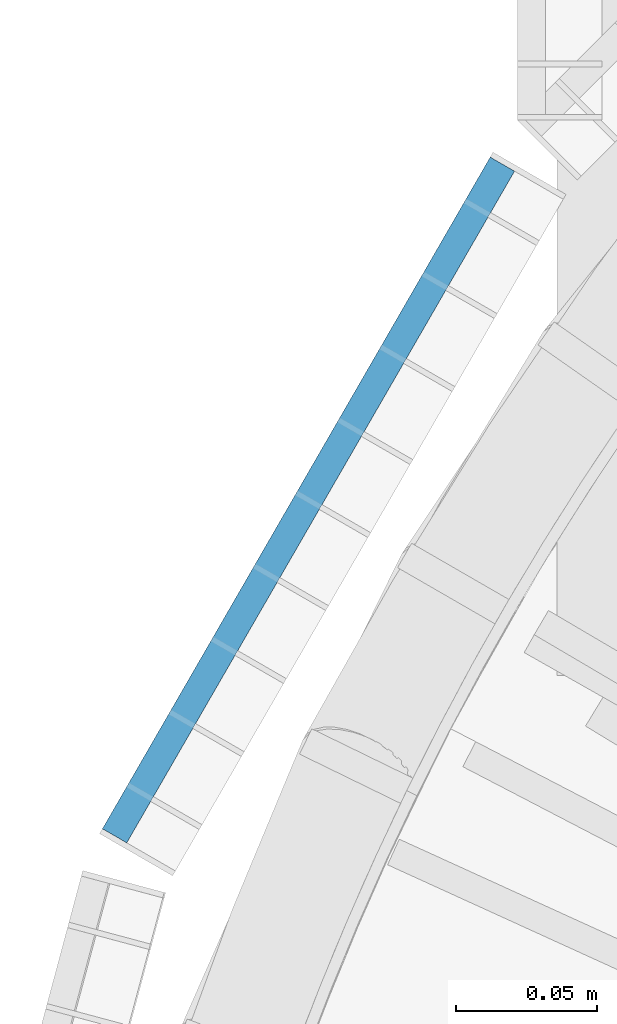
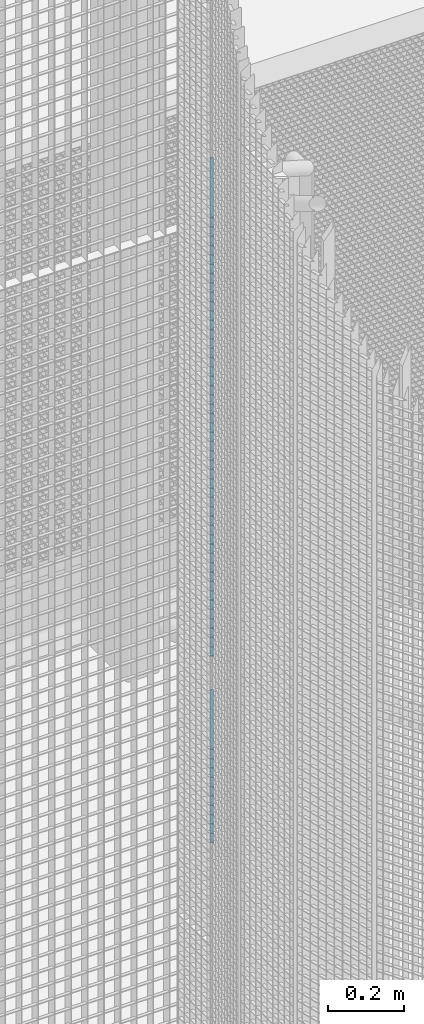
# One storey, part 198 of 1183: 59 beams, 1 element without a shape of its own.
"""IFC2X3 building model written with IfcOpenShell, lengths in millimetres."""

import ifcopenshell
import ifcopenshell.guid

model = None  # the IFC model being written
_history = None  # IfcOwnerHistory: only IFC2X3 demands one
_inside = {}  # id of a spatial element -> (the spatial element, [elements in it])
_under = {}  # id of a project, library or spatial element -> (it, [spatial elements below it])
_declared = {}  # id of a project -> (the project, [libraries it declares])
_typed = {}  # id of a type object -> (the type object, [elements of that type])
_made_of = {}  # id of a material, layer set ... -> (it, [elements and type objects made of it])


def new_model(schema):
    """Start an empty IFC model of exactly this schema.

    Asked for "IFC4X3", IfcOpenShell would pick the latest addendum, in which some entities
    have other attributes; the version numbers below select the first issue.
    IFC2X3 requires an IfcOwnerHistory on every rooted entity: one is made here for all.
    """
    global model, _history
    if schema == "IFC4X3":
        model = ifcopenshell.file(schema_version=(4, 3, 0, 0))
    else:
        model = ifcopenshell.file(schema=schema)
    _inside.clear()
    _under.clear()
    _declared.clear()
    _typed.clear()
    _made_of.clear()
    _history = None
    if model.schema == "IFC2X3":
        org = make("IfcOrganization", Name="unknown")
        user = make(
            "IfcPersonAndOrganization",
            ThePerson=make("IfcPerson", FamilyName="unknown"),
            TheOrganization=org,
        )
        app = make(
            "IfcApplication",
            ApplicationDeveloper=org,
            Version="unknown",
            ApplicationFullName="unknown",
            ApplicationIdentifier="unknown",
        )
        _history = make(
            "IfcOwnerHistory",
            OwningUser=user,
            OwningApplication=app,
            ChangeAction="ADDED",
            CreationDate=0,
        )
    return model


def make(cls, **values):
    """One entity of the class cls with the attributes given. An attribute that is None is left unset."""
    return model.create_entity(
        cls, **{name: value for name, value in values.items() if value is not None}
    )


def rooted(cls, **values):
    """An entity with a GlobalId (a new one), such as an element, a storey or a relation."""
    return make(cls, GlobalId=ifcopenshell.guid.new(), OwnerHistory=_history, **values)


def si_unit(unit_type, name, prefix=None):
    """IfcSIUnit, for example si_unit("LENGTHUNIT", "METRE", prefix="MILLI")."""
    return make("IfcSIUnit", UnitType=unit_type, Prefix=prefix, Name=name)


def assignment(units):
    """IfcUnitAssignment: the units of a project."""
    return None if units is None else make("IfcUnitAssignment", Units=units)


def point(xyz):
    """IfcCartesianPoint."""
    return None if xyz is None else make("IfcCartesianPoint", Coordinates=xyz)


def direction(xyz):
    """IfcDirection."""
    return None if xyz is None else make("IfcDirection", DirectionRatios=xyz)


def frame(location, z_axis=None, x_axis=None):
    """IfcAxis2Placement3D, a coordinate frame: its origin and axes. An axis left out is left unset."""
    return make(
        "IfcAxis2Placement3D",
        Location=point(location),
        Axis=direction(z_axis),
        RefDirection=direction(x_axis),
    )


def frame_2d(location, x_axis=None):
    """IfcAxis2Placement2D, a coordinate frame in the plane: its origin and x axis."""
    return make(
        "IfcAxis2Placement2D", Location=point(location), RefDirection=direction(x_axis)
    )


def origin_with_axes():
    """The frame at (0, 0, 0) with the z axis (0, 0, 1) and the x axis (1, 0, 0) written out."""
    return frame((0.0, 0.0, 0.0), z_axis=(0.0, 0.0, 1.0), x_axis=(1.0, 0.0, 0.0))


def origin_2d_with_axis():
    """The frame at (0, 0) in the plane with the x axis (1, 0) written out."""
    return frame_2d((0.0, 0.0), x_axis=(1.0, 0.0))


def place(relative_to, where):
    """IfcLocalPlacement: puts the frame where relative to a parent placement (None: the world)."""
    return make(
        "IfcLocalPlacement", PlacementRelTo=relative_to, RelativePlacement=where
    )


def context(
    kind, dimensions, precision=None, world=None, true_north=None, identifier=None
):
    """IfcGeometricRepresentationContext, for example the 3D "Model" context."""
    return make(
        "IfcGeometricRepresentationContext",
        ContextIdentifier=identifier,
        ContextType=kind,
        CoordinateSpaceDimension=dimensions,
        Precision=precision,
        WorldCoordinateSystem=world,
        TrueNorth=true_north,
    )


def subcontext(parent, identifier, kind, view, scale=None):
    """IfcGeometricRepresentationSubContext, for example "Body" below "Model"."""
    return make(
        "IfcGeometricRepresentationSubContext",
        ContextIdentifier=identifier,
        ContextType=kind,
        ParentContext=parent,
        TargetScale=scale,
        TargetView=view,
    )


def project(units=None, contexts=None):
    """IfcProject with its units and contexts."""
    return rooted(
        "IfcProject",
        Name="project",
        RepresentationContexts=contexts,
        UnitsInContext=assignment(units),
    )


def spatial(cls, under=None, at=None, **own):
    """A site, building, storey or space (cls), placed at a placement, below another one or the project."""
    s = rooted(cls, ObjectPlacement=at, **own)
    if under is not None:
        _under.setdefault(under.id(), (under, []))[1].append(s)
    return s


def profile(cls, at=None, kind="AREA", **sizes):
    """A parametric profile (cls). Its sizes go by their IFC names, for example OverallWidth=200.0."""
    return make(cls, ProfileType=kind, Position=at, **sizes)


def rectangle(**sizes):
    """IfcRectangleProfileDef."""
    return profile("IfcRectangleProfileDef", **sizes)


def extrude(swept, where, along, depth):
    """IfcExtrudedAreaSolid: the profile swept, set in the frame where, extruded along a direction by depth."""
    return make(
        "IfcExtrudedAreaSolid",
        SweptArea=swept,
        Position=where,
        ExtrudedDirection=direction(along),
        Depth=depth,
    )


def shape(context_of_items, identifier, shape_type, items):
    """IfcShapeRepresentation: the items that make up one representation, for example the "Body"."""
    return make(
        "IfcShapeRepresentation",
        ContextOfItems=context_of_items,
        RepresentationIdentifier=identifier,
        RepresentationType=shape_type,
        Items=items,
    )


def material(Name=None, Category=None):
    """IfcMaterial."""
    return make("IfcMaterial", Name=Name, Category=Category)


def made_of(thing, what):
    """Note that an element or type object is made of a material, layer set ...; save() writes the relation."""
    if what is not None:
        _made_of.setdefault(what.id(), (what, []))[1].append(thing)
    return thing


def type_object(cls, material=None, **own):
    """A type object (cls), such as IfcWallType, which elements share."""
    return made_of(rooted(cls, **own), material)


def element(
    cls,
    number,
    at=None,
    inside=None,
    cuts=None,
    type_object=None,
    material=None,
    context=None,
    identifier="Body",
    shape_type=None,
    held_by="IfcProductDefinitionShape",
    body=None,
    shapes=None,
    **own,
):
    """One element of the class cls, such as IfcWall. Its Tag is "e" and its number.

    at: its placement. inside: the storey or other place that contains it. cuts: it is an
    opening in that element (IfcRelVoidsElement). A single representation is given by context,
    identifier, shape_type and body (its items); several are given by shapes. held_by: the class
    of the entity that holds the representations. save() writes the other relations.
    """
    e = rooted(cls, Tag="e%d" % number, ObjectPlacement=at, **own)
    if body is not None:
        shapes = [shape(context, identifier, shape_type, body)]
    if shapes is not None:
        e.Representation = make(held_by, Representations=shapes)
    if inside is not None:
        _inside.setdefault(inside.id(), (inside, []))[1].append(e)
    if cuts is not None:
        rooted(
            "IfcRelVoidsElement", RelatingBuildingElement=cuts, RelatedOpeningElement=e
        )
    if type_object is not None:
        _typed.setdefault(type_object.id(), (type_object, []))[1].append(e)
    return made_of(e, material)


def aggregate(whole, parts):
    """IfcRelAggregates: a whole, such as a stair, and the parts it consists of."""
    return rooted("IfcRelAggregates", RelatingObject=whole, RelatedObjects=parts)


def save(model, path):
    """Write the relations noted so far, then the file.

    IfcRelAggregates (storeys below a building ...), IfcRelContainedInSpatialStructure (elements
    in a storey), IfcRelDefinesByType, IfcRelAssociatesMaterial and IfcRelDeclares: one each for
    every whole, place, type object, material and project.
    """
    for whole, parts in _under.values():
        aggregate(whole, parts)
    for where, things in _inside.values():
        rooted(
            "IfcRelContainedInSpatialStructure",
            RelatedElements=things,
            RelatingStructure=where,
        )
    for kind, things in _typed.values():
        rooted("IfcRelDefinesByType", RelatedObjects=things, RelatingType=kind)
    for what, things in _made_of.values():
        rooted("IfcRelAssociatesMaterial", RelatedObjects=things, RelatingMaterial=what)
    for by, libraries in _declared.values():
        rooted("IfcRelDeclares", RelatingContext=by, RelatedDefinitions=libraries)
    model.write(path)


model = new_model("IFC2X3")

# Units and contexts
model_context = context("Model", 3, precision=1e-05, world=origin_with_axes())
body_context = subcontext(model_context, "Body", "Model", "MODEL_VIEW")
ifc_project = project(units=[si_unit("LENGTHUNIT", "METRE", prefix="MILLI"), si_unit("AREAUNIT", "SQUARE_METRE"), si_unit("VOLUMEUNIT", "CUBIC_METRE"), si_unit("MASSUNIT", "GRAM", prefix="KILO"), si_unit("TIMEUNIT", "SECOND"), si_unit("PLANEANGLEUNIT", "RADIAN"), si_unit("SOLIDANGLEUNIT", "STERADIAN"), si_unit("THERMODYNAMICTEMPERATUREUNIT", "DEGREE_CELSIUS"), si_unit("LUMINOUSINTENSITYUNIT", "LUMEN")], contexts=[model_context])

# Site, building, storey
site_placement = place(None, origin_with_axes())
site = spatial("IfcSite", under=ifc_project, at=site_placement, Name="Undefined", CompositionType="ELEMENT")
building_placement = place(site_placement, origin_with_axes())
building = spatial("IfcBuilding", under=site, at=building_placement, Name="Undefined", CompositionType="ELEMENT")
storey_placement = place(building_placement, origin_with_axes())
storey = spatial("IfcBuildingStorey", under=building, at=storey_placement, Name="Undefined", CompositionType="ELEMENT", Elevation=0.0)

# Assembly, beams
assembly_placement = place(storey_placement, origin_with_axes())
assembly = element("IfcElementAssembly", 1, at=assembly_placement, inside=storey, Name="BORDURE", AssemblyPlace="NOTDEFINED", PredefinedType="NOTDEFINED")
ifc_material = material(Name="STEEL/S235JR")
beam_type = type_object("IfcBeamType", Name="PL2*10", PredefinedType="NOTDEFINED")
beam_1_placement = place(assembly_placement, frame((-895.303964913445, 676.248044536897, 11550.0), z_axis=(-0.866025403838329, 0.499999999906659, 0.0), x_axis=(-0.49999999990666, -0.866025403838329, 0.0)))
beam_1 = element("IfcBeam", 2, at=beam_1_placement, type_object=beam_type, material=ifc_material, Name="ENTRETOISE", context=body_context, shape_type="SweptSolid", body=[
    extrude(rectangle(XDim=2.0, YDim=10.0, at=origin_2d_with_axis()), frame((275.999999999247, 9.09494701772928e-13, 1.53210777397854e-14), z_axis=(-1.0, 0.0, 0.0), x_axis=(0.0, -1.0, 0.0)), (0.0, 0.0, 1.0), 276.0),
])
beam_2_placement = place(assembly_placement, frame((-895.303964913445, 676.248044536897, 11520.0), z_axis=(-0.866025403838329, 0.499999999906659, 0.0), x_axis=(-0.49999999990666, -0.866025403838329, 0.0)))
beam_2 = element("IfcBeam", 3, at=beam_2_placement, type_object=beam_type, material=ifc_material, Name="ENTRETOISE", context=body_context, shape_type="SweptSolid", body=[
    extrude(rectangle(XDim=2.0, YDim=10.0, at=origin_2d_with_axis()), frame((275.999999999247, 9.09494701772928e-13, 1.53210777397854e-14), z_axis=(-1.0, 0.0, 0.0), x_axis=(0.0, -1.0, 0.0)), (0.0, 0.0, 1.0), 276.0),
])
beam_3_placement = place(assembly_placement, frame((-895.303964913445, 676.248044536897, 11490.0), z_axis=(-0.866025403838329, 0.499999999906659, 0.0), x_axis=(-0.49999999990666, -0.866025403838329, 0.0)))
beam_3 = element("IfcBeam", 4, at=beam_3_placement, type_object=beam_type, material=ifc_material, Name="ENTRETOISE", context=body_context, shape_type="SweptSolid", body=[
    extrude(rectangle(XDim=2.0, YDim=10.0, at=origin_2d_with_axis()), frame((275.999999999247, 9.09494701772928e-13, 1.53210777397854e-14), z_axis=(-1.0, 0.0, 0.0), x_axis=(0.0, -1.0, 0.0)), (0.0, 0.0, 1.0), 276.0),
])
beam_4_placement = place(assembly_placement, frame((-895.303964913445, 676.248044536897, 11460.0), z_axis=(-0.866025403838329, 0.499999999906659, 0.0), x_axis=(-0.49999999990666, -0.866025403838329, 0.0)))
beam_4 = element("IfcBeam", 5, at=beam_4_placement, type_object=beam_type, material=ifc_material, Name="ENTRETOISE", context=body_context, shape_type="SweptSolid", body=[
    extrude(rectangle(XDim=2.0, YDim=10.0, at=origin_2d_with_axis()), frame((275.999999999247, 9.09494701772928e-13, 1.53210777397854e-14), z_axis=(-1.0, 0.0, 0.0), x_axis=(0.0, -1.0, 0.0)), (0.0, 0.0, 1.0), 276.0),
])
beam_5_placement = place(assembly_placement, frame((-895.303964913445, 676.248044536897, 11430.0), z_axis=(-0.866025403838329, 0.499999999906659, 0.0), x_axis=(-0.49999999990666, -0.866025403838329, 0.0)))
beam_5 = element("IfcBeam", 6, at=beam_5_placement, type_object=beam_type, material=ifc_material, Name="ENTRETOISE", context=body_context, shape_type="SweptSolid", body=[
    extrude(rectangle(XDim=2.0, YDim=10.0, at=origin_2d_with_axis()), frame((275.999999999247, 9.09494701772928e-13, 1.53210777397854e-14), z_axis=(-1.0, 0.0, 0.0), x_axis=(0.0, -1.0, 0.0)), (0.0, 0.0, 1.0), 276.0),
])
beam_6_placement = place(assembly_placement, frame((-895.303964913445, 676.248044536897, 11400.0), z_axis=(-0.866025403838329, 0.499999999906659, 0.0), x_axis=(-0.49999999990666, -0.866025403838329, 0.0)))
beam_6 = element("IfcBeam", 7, at=beam_6_placement, type_object=beam_type, material=ifc_material, Name="ENTRETOISE", context=body_context, shape_type="SweptSolid", body=[
    extrude(rectangle(XDim=2.0, YDim=10.0, at=origin_2d_with_axis()), frame((275.999999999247, 9.09494701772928e-13, 1.53210777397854e-14), z_axis=(-1.0, 0.0, 0.0), x_axis=(0.0, -1.0, 0.0)), (0.0, 0.0, 1.0), 276.0),
])
beam_7_placement = place(assembly_placement, frame((-895.303964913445, 676.248044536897, 11370.0), z_axis=(-0.866025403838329, 0.499999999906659, 0.0), x_axis=(-0.49999999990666, -0.866025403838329, 0.0)))
beam_7 = element("IfcBeam", 8, at=beam_7_placement, type_object=beam_type, material=ifc_material, Name="ENTRETOISE", context=body_context, shape_type="SweptSolid", body=[
    extrude(rectangle(XDim=2.0, YDim=10.0, at=origin_2d_with_axis()), frame((275.999999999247, 9.09494701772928e-13, 1.53210777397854e-14), z_axis=(-1.0, 0.0, 0.0), x_axis=(0.0, -1.0, 0.0)), (0.0, 0.0, 1.0), 276.0),
])
beam_8_placement = place(assembly_placement, frame((-895.303964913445, 676.248044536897, 11340.0), z_axis=(-0.866025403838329, 0.499999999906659, 0.0), x_axis=(-0.49999999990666, -0.866025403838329, 0.0)))
beam_8 = element("IfcBeam", 9, at=beam_8_placement, type_object=beam_type, material=ifc_material, Name="ENTRETOISE", context=body_context, shape_type="SweptSolid", body=[
    extrude(rectangle(XDim=2.0, YDim=10.0, at=origin_2d_with_axis()), frame((275.999999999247, 9.09494701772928e-13, 1.53210777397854e-14), z_axis=(-1.0, 0.0, 0.0), x_axis=(0.0, -1.0, 0.0)), (0.0, 0.0, 1.0), 276.0),
])
beam_9_placement = place(assembly_placement, frame((-895.303964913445, 676.248044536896, 11310.0), z_axis=(-0.866025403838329, 0.499999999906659, 0.0), x_axis=(-0.49999999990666, -0.866025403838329, 0.0)))
beam_9 = element("IfcBeam", 10, at=beam_9_placement, type_object=beam_type, material=ifc_material, Name="ENTRETOISE", context=body_context, shape_type="SweptSolid", body=[
    extrude(rectangle(XDim=2.0, YDim=10.0, at=origin_2d_with_axis()), frame((275.999999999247, 9.09494701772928e-13, 1.53210777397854e-14), z_axis=(-1.0, 0.0, 0.0), x_axis=(0.0, -1.0, 0.0)), (0.0, 0.0, 1.0), 276.0),
])
beam_10_placement = place(assembly_placement, frame((-895.303964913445, 676.248044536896, 11280.0), z_axis=(-0.866025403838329, 0.499999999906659, 0.0), x_axis=(-0.49999999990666, -0.866025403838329, 0.0)))
beam_10 = element("IfcBeam", 11, at=beam_10_placement, type_object=beam_type, material=ifc_material, Name="ENTRETOISE", context=body_context, shape_type="SweptSolid", body=[
    extrude(rectangle(XDim=2.0, YDim=10.0, at=origin_2d_with_axis()), frame((275.999999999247, 9.09494701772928e-13, 1.53210777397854e-14), z_axis=(-1.0, 0.0, 0.0), x_axis=(0.0, -1.0, 0.0)), (0.0, 0.0, 1.0), 276.0),
])
beam_11_placement = place(assembly_placement, frame((-895.303964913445, 676.248044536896, 11250.0), z_axis=(-0.866025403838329, 0.499999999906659, 0.0), x_axis=(-0.49999999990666, -0.866025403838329, 0.0)))
beam_11 = element("IfcBeam", 12, at=beam_11_placement, type_object=beam_type, material=ifc_material, Name="ENTRETOISE", context=body_context, shape_type="SweptSolid", body=[
    extrude(rectangle(XDim=2.0, YDim=10.0, at=origin_2d_with_axis()), frame((275.999999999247, 9.09494701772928e-13, 1.53210777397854e-14), z_axis=(-1.0, 0.0, 0.0), x_axis=(0.0, -1.0, 0.0)), (0.0, 0.0, 1.0), 276.0),
])
beam_12_placement = place(assembly_placement, frame((-895.303964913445, 676.248044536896, 11220.0), z_axis=(-0.866025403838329, 0.499999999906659, 0.0), x_axis=(-0.49999999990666, -0.866025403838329, 0.0)))
beam_12 = element("IfcBeam", 13, at=beam_12_placement, type_object=beam_type, material=ifc_material, Name="ENTRETOISE", context=body_context, shape_type="SweptSolid", body=[
    extrude(rectangle(XDim=2.0, YDim=10.0, at=origin_2d_with_axis()), frame((275.999999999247, 9.09494701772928e-13, 1.53210777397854e-14), z_axis=(-1.0, 0.0, 0.0), x_axis=(0.0, -1.0, 0.0)), (0.0, 0.0, 1.0), 276.0),
])
beam_13_placement = place(assembly_placement, frame((-895.303964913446, 676.248044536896, 11190.0), z_axis=(-0.866025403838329, 0.499999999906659, 0.0), x_axis=(-0.49999999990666, -0.866025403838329, 0.0)))
beam_13 = element("IfcBeam", 14, at=beam_13_placement, type_object=beam_type, material=ifc_material, Name="ENTRETOISE", context=body_context, shape_type="SweptSolid", body=[
    extrude(rectangle(XDim=2.0, YDim=10.0, at=origin_2d_with_axis()), frame((275.999999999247, 9.09494701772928e-13, 1.53210777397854e-14), z_axis=(-1.0, 0.0, 0.0), x_axis=(0.0, -1.0, 0.0)), (0.0, 0.0, 1.0), 276.0),
])
beam_14_placement = place(assembly_placement, frame((-895.303964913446, 676.248044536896, 11160.0), z_axis=(-0.866025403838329, 0.499999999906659, 0.0), x_axis=(-0.49999999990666, -0.866025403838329, 0.0)))
beam_14 = element("IfcBeam", 15, at=beam_14_placement, type_object=beam_type, material=ifc_material, Name="ENTRETOISE", context=body_context, shape_type="SweptSolid", body=[
    extrude(rectangle(XDim=2.0, YDim=10.0, at=origin_2d_with_axis()), frame((275.999999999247, 9.09494701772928e-13, 1.53210777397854e-14), z_axis=(-1.0, 0.0, 0.0), x_axis=(0.0, -1.0, 0.0)), (0.0, 0.0, 1.0), 276.0),
])
beam_15_placement = place(assembly_placement, frame((-895.303964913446, 676.248044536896, 11130.0), z_axis=(-0.866025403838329, 0.499999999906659, 0.0), x_axis=(-0.49999999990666, -0.866025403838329, 0.0)))
beam_15 = element("IfcBeam", 16, at=beam_15_placement, type_object=beam_type, material=ifc_material, Name="ENTRETOISE", context=body_context, shape_type="SweptSolid", body=[
    extrude(rectangle(XDim=2.0, YDim=10.0, at=origin_2d_with_axis()), frame((275.999999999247, 9.09494701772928e-13, 1.53210777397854e-14), z_axis=(-1.0, 0.0, 0.0), x_axis=(0.0, -1.0, 0.0)), (0.0, 0.0, 1.0), 276.0),
])
beam_16_placement = place(assembly_placement, frame((-895.303964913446, 676.248044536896, 11100.0), z_axis=(-0.866025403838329, 0.499999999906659, 0.0), x_axis=(-0.49999999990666, -0.866025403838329, 0.0)))
beam_16 = element("IfcBeam", 17, at=beam_16_placement, type_object=beam_type, material=ifc_material, Name="ENTRETOISE", context=body_context, shape_type="SweptSolid", body=[
    extrude(rectangle(XDim=2.0, YDim=10.0, at=origin_2d_with_axis()), frame((275.999999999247, 9.09494701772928e-13, 1.53210777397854e-14), z_axis=(-1.0, 0.0, 0.0), x_axis=(0.0, -1.0, 0.0)), (0.0, 0.0, 1.0), 276.0),
])
beam_17_placement = place(assembly_placement, frame((-895.303964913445, 676.248044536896, 11070.0), z_axis=(-0.866025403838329, 0.499999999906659, 0.0), x_axis=(-0.49999999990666, -0.866025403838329, 0.0)))
beam_17 = element("IfcBeam", 18, at=beam_17_placement, type_object=beam_type, material=ifc_material, Name="ENTRETOISE", context=body_context, shape_type="SweptSolid", body=[
    extrude(rectangle(XDim=2.0, YDim=10.0, at=origin_2d_with_axis()), frame((275.999999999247, 9.09494701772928e-13, 1.53210777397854e-14), z_axis=(-1.0, 0.0, 0.0), x_axis=(0.0, -1.0, 0.0)), (0.0, 0.0, 1.0), 276.0),
])
beam_18_placement = place(assembly_placement, frame((-895.303964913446, 676.248044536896, 11040.0), z_axis=(-0.866025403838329, 0.499999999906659, 0.0), x_axis=(-0.49999999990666, -0.866025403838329, 0.0)))
beam_18 = element("IfcBeam", 19, at=beam_18_placement, type_object=beam_type, material=ifc_material, Name="ENTRETOISE", context=body_context, shape_type="SweptSolid", body=[
    extrude(rectangle(XDim=2.0, YDim=10.0, at=origin_2d_with_axis()), frame((275.999999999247, 9.09494701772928e-13, 1.53210777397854e-14), z_axis=(-1.0, 0.0, 0.0), x_axis=(0.0, -1.0, 0.0)), (0.0, 0.0, 1.0), 276.0),
])
beam_19_placement = place(assembly_placement, frame((-895.303964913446, 676.248044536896, 11010.0), z_axis=(-0.866025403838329, 0.499999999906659, 0.0), x_axis=(-0.49999999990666, -0.866025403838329, 0.0)))
beam_19 = element("IfcBeam", 20, at=beam_19_placement, type_object=beam_type, material=ifc_material, Name="ENTRETOISE", context=body_context, shape_type="SweptSolid", body=[
    extrude(rectangle(XDim=2.0, YDim=10.0, at=origin_2d_with_axis()), frame((275.999999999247, 9.09494701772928e-13, 1.53210777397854e-14), z_axis=(-1.0, 0.0, 0.0), x_axis=(0.0, -1.0, 0.0)), (0.0, 0.0, 1.0), 276.0),
])
beam_20_placement = place(assembly_placement, frame((-895.303964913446, 676.248044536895, 10980.0), z_axis=(-0.866025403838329, 0.499999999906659, 0.0), x_axis=(-0.49999999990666, -0.866025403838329, 0.0)))
beam_20 = element("IfcBeam", 21, at=beam_20_placement, type_object=beam_type, material=ifc_material, Name="ENTRETOISE", context=body_context, shape_type="SweptSolid", body=[
    extrude(rectangle(XDim=2.0, YDim=10.0, at=origin_2d_with_axis()), frame((275.999999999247, 9.09494701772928e-13, 1.53210777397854e-14), z_axis=(-1.0, 0.0, 0.0), x_axis=(0.0, -1.0, 0.0)), (0.0, 0.0, 1.0), 276.0),
])
beam_21_placement = place(assembly_placement, frame((-895.303964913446, 676.248044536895, 10950.0), z_axis=(-0.866025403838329, 0.499999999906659, 0.0), x_axis=(-0.49999999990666, -0.866025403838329, 0.0)))
beam_21 = element("IfcBeam", 22, at=beam_21_placement, type_object=beam_type, material=ifc_material, Name="ENTRETOISE", context=body_context, shape_type="SweptSolid", body=[
    extrude(rectangle(XDim=2.0, YDim=10.0, at=origin_2d_with_axis()), frame((275.999999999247, 9.09494701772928e-13, 1.53210777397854e-14), z_axis=(-1.0, 0.0, 0.0), x_axis=(0.0, -1.0, 0.0)), (0.0, 0.0, 1.0), 276.0),
])
beam_22_placement = place(assembly_placement, frame((-895.303964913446, 676.248044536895, 10920.0), z_axis=(-0.866025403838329, 0.499999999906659, 0.0), x_axis=(-0.49999999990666, -0.866025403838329, 0.0)))
beam_22 = element("IfcBeam", 23, at=beam_22_placement, type_object=beam_type, material=ifc_material, Name="ENTRETOISE", context=body_context, shape_type="SweptSolid", body=[
    extrude(rectangle(XDim=2.0, YDim=10.0, at=origin_2d_with_axis()), frame((275.999999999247, 9.09494701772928e-13, 1.53210777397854e-14), z_axis=(-1.0, 0.0, 0.0), x_axis=(0.0, -1.0, 0.0)), (0.0, 0.0, 1.0), 276.0),
])
beam_23_placement = place(assembly_placement, frame((-895.303964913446, 676.248044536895, 10890.0), z_axis=(-0.866025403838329, 0.499999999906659, 0.0), x_axis=(-0.49999999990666, -0.866025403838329, 0.0)))
beam_23 = element("IfcBeam", 24, at=beam_23_placement, type_object=beam_type, material=ifc_material, Name="ENTRETOISE", context=body_context, shape_type="SweptSolid", body=[
    extrude(rectangle(XDim=2.0, YDim=10.0, at=origin_2d_with_axis()), frame((275.999999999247, 9.09494701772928e-13, 1.53210777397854e-14), z_axis=(-1.0, 0.0, 0.0), x_axis=(0.0, -1.0, 0.0)), (0.0, 0.0, 1.0), 276.0),
])
beam_24_placement = place(assembly_placement, frame((-895.303964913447, 676.248044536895, 10860.0), z_axis=(-0.866025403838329, 0.499999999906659, 0.0), x_axis=(-0.49999999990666, -0.866025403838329, 0.0)))
beam_24 = element("IfcBeam", 25, at=beam_24_placement, type_object=beam_type, material=ifc_material, Name="ENTRETOISE", context=body_context, shape_type="SweptSolid", body=[
    extrude(rectangle(XDim=2.0, YDim=10.0, at=origin_2d_with_axis()), frame((275.999999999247, 9.09494701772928e-13, 1.53210777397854e-14), z_axis=(-1.0, 0.0, 0.0), x_axis=(0.0, -1.0, 0.0)), (0.0, 0.0, 1.0), 276.0),
])
beam_25_placement = place(assembly_placement, frame((-895.303964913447, 676.248044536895, 10830.0), z_axis=(-0.866025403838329, 0.499999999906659, 0.0), x_axis=(-0.49999999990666, -0.866025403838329, 0.0)))
beam_25 = element("IfcBeam", 26, at=beam_25_placement, type_object=beam_type, material=ifc_material, Name="ENTRETOISE", context=body_context, shape_type="SweptSolid", body=[
    extrude(rectangle(XDim=2.0, YDim=10.0, at=origin_2d_with_axis()), frame((275.999999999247, 9.09494701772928e-13, 1.53210777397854e-14), z_axis=(-1.0, 0.0, 0.0), x_axis=(0.0, -1.0, 0.0)), (0.0, 0.0, 1.0), 276.0),
])
beam_26_placement = place(assembly_placement, frame((-895.303964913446, 676.248044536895, 10800.0), z_axis=(-0.866025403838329, 0.499999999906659, 0.0), x_axis=(-0.49999999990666, -0.866025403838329, 0.0)))
beam_26 = element("IfcBeam", 27, at=beam_26_placement, type_object=beam_type, material=ifc_material, Name="ENTRETOISE", context=body_context, shape_type="SweptSolid", body=[
    extrude(rectangle(XDim=2.0, YDim=10.0, at=origin_2d_with_axis()), frame((275.999999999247, 9.09494701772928e-13, 1.53210777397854e-14), z_axis=(-1.0, 0.0, 0.0), x_axis=(0.0, -1.0, 0.0)), (0.0, 0.0, 1.0), 276.0),
])
beam_27_placement = place(assembly_placement, frame((-895.303964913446, 676.248044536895, 10770.0), z_axis=(-0.866025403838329, 0.499999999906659, 0.0), x_axis=(-0.49999999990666, -0.866025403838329, 0.0)))
beam_27 = element("IfcBeam", 28, at=beam_27_placement, type_object=beam_type, material=ifc_material, Name="ENTRETOISE", context=body_context, shape_type="SweptSolid", body=[
    extrude(rectangle(XDim=2.0, YDim=10.0, at=origin_2d_with_axis()), frame((275.999999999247, 9.09494701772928e-13, 1.53210777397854e-14), z_axis=(-1.0, 0.0, 0.0), x_axis=(0.0, -1.0, 0.0)), (0.0, 0.0, 1.0), 276.0),
])
beam_28_placement = place(assembly_placement, frame((-895.303964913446, 676.248044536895, 10740.0), z_axis=(-0.866025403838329, 0.499999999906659, 0.0), x_axis=(-0.49999999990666, -0.866025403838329, 0.0)))
beam_28 = element("IfcBeam", 29, at=beam_28_placement, type_object=beam_type, material=ifc_material, Name="ENTRETOISE", context=body_context, shape_type="SweptSolid", body=[
    extrude(rectangle(XDim=2.0, YDim=10.0, at=origin_2d_with_axis()), frame((275.999999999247, 9.09494701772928e-13, 1.53210777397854e-14), z_axis=(-1.0, 0.0, 0.0), x_axis=(0.0, -1.0, 0.0)), (0.0, 0.0, 1.0), 276.0),
])
beam_29_placement = place(assembly_placement, frame((-895.303964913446, 676.248044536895, 10710.0), z_axis=(-0.866025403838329, 0.499999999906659, 0.0), x_axis=(-0.49999999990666, -0.866025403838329, 0.0)))
beam_29 = element("IfcBeam", 30, at=beam_29_placement, type_object=beam_type, material=ifc_material, Name="ENTRETOISE", context=body_context, shape_type="SweptSolid", body=[
    extrude(rectangle(XDim=2.0, YDim=10.0, at=origin_2d_with_axis()), frame((275.999999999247, 9.09494701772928e-13, 1.53210777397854e-14), z_axis=(-1.0, 0.0, 0.0), x_axis=(0.0, -1.0, 0.0)), (0.0, 0.0, 1.0), 276.0),
])
beam_30_placement = place(assembly_placement, frame((-895.303964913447, 676.248044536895, 10680.0), z_axis=(-0.866025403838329, 0.499999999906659, 0.0), x_axis=(-0.49999999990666, -0.866025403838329, 0.0)))
beam_30 = element("IfcBeam", 31, at=beam_30_placement, type_object=beam_type, material=ifc_material, Name="ENTRETOISE", context=body_context, shape_type="SweptSolid", body=[
    extrude(rectangle(XDim=2.0, YDim=10.0, at=origin_2d_with_axis()), frame((275.999999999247, 9.09494701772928e-13, 1.53210777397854e-14), z_axis=(-1.0, 0.0, 0.0), x_axis=(0.0, -1.0, 0.0)), (0.0, 0.0, 1.0), 276.0),
])
beam_31_placement = place(assembly_placement, frame((-895.303964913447, 676.248044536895, 10650.0), z_axis=(-0.866025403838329, 0.499999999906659, 0.0), x_axis=(-0.49999999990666, -0.866025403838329, 0.0)))
beam_31 = element("IfcBeam", 32, at=beam_31_placement, type_object=beam_type, material=ifc_material, Name="ENTRETOISE", context=body_context, shape_type="SweptSolid", body=[
    extrude(rectangle(XDim=2.0, YDim=10.0, at=origin_2d_with_axis()), frame((275.999999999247, 9.09494701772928e-13, 1.53210777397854e-14), z_axis=(-1.0, 0.0, 0.0), x_axis=(0.0, -1.0, 0.0)), (0.0, 0.0, 1.0), 276.0),
])
beam_32_placement = place(assembly_placement, frame((-895.303964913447, 676.248044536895, 10620.0), z_axis=(-0.866025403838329, 0.499999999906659, 0.0), x_axis=(-0.49999999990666, -0.866025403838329, 0.0)))
beam_32 = element("IfcBeam", 33, at=beam_32_placement, type_object=beam_type, material=ifc_material, Name="ENTRETOISE", context=body_context, shape_type="SweptSolid", body=[
    extrude(rectangle(XDim=2.0, YDim=10.0, at=origin_2d_with_axis()), frame((275.999999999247, 9.09494701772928e-13, 1.53210777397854e-14), z_axis=(-1.0, 0.0, 0.0), x_axis=(0.0, -1.0, 0.0)), (0.0, 0.0, 1.0), 276.0),
])
beam_33_placement = place(assembly_placement, frame((-895.303964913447, 676.248044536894, 10590.0), z_axis=(-0.866025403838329, 0.499999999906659, 0.0), x_axis=(-0.49999999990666, -0.866025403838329, 0.0)))
beam_33 = element("IfcBeam", 34, at=beam_33_placement, type_object=beam_type, material=ifc_material, Name="ENTRETOISE", context=body_context, shape_type="SweptSolid", body=[
    extrude(rectangle(XDim=2.0, YDim=10.0, at=origin_2d_with_axis()), frame((275.999999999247, 9.09494701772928e-13, 1.53210777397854e-14), z_axis=(-1.0, 0.0, 0.0), x_axis=(0.0, -1.0, 0.0)), (0.0, 0.0, 1.0), 276.0),
])
beam_34_placement = place(assembly_placement, frame((-895.303964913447, 676.248044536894, 10560.0), z_axis=(-0.866025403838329, 0.499999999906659, 0.0), x_axis=(-0.49999999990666, -0.866025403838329, 0.0)))
beam_34 = element("IfcBeam", 35, at=beam_34_placement, type_object=beam_type, material=ifc_material, Name="ENTRETOISE", context=body_context, shape_type="SweptSolid", body=[
    extrude(rectangle(XDim=2.0, YDim=10.0, at=origin_2d_with_axis()), frame((275.999999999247, 9.09494701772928e-13, 1.53210777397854e-14), z_axis=(-1.0, 0.0, 0.0), x_axis=(0.0, -1.0, 0.0)), (0.0, 0.0, 1.0), 276.0),
])
beam_35_placement = place(assembly_placement, frame((-895.303964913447, 676.248044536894, 10530.0), z_axis=(-0.866025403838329, 0.499999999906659, 0.0), x_axis=(-0.49999999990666, -0.866025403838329, 0.0)))
beam_35 = element("IfcBeam", 36, at=beam_35_placement, type_object=beam_type, material=ifc_material, Name="ENTRETOISE", context=body_context, shape_type="SweptSolid", body=[
    extrude(rectangle(XDim=2.0, YDim=10.0, at=origin_2d_with_axis()), frame((275.999999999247, 9.09494701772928e-13, 1.53210777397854e-14), z_axis=(-1.0, 0.0, 0.0), x_axis=(0.0, -1.0, 0.0)), (0.0, 0.0, 1.0), 276.0),
])
beam_36_placement = place(assembly_placement, frame((-895.303964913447, 676.248044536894, 10500.0), z_axis=(-0.866025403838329, 0.499999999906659, 0.0), x_axis=(-0.49999999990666, -0.866025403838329, 0.0)))
beam_36 = element("IfcBeam", 37, at=beam_36_placement, type_object=beam_type, material=ifc_material, Name="ENTRETOISE", context=body_context, shape_type="SweptSolid", body=[
    extrude(rectangle(XDim=2.0, YDim=10.0, at=origin_2d_with_axis()), frame((275.999999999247, 9.09494701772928e-13, 1.53210777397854e-14), z_axis=(-1.0, 0.0, 0.0), x_axis=(0.0, -1.0, 0.0)), (0.0, 0.0, 1.0), 276.0),
])
beam_37_placement = place(assembly_placement, frame((-895.303964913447, 676.248044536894, 10470.0), z_axis=(-0.866025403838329, 0.499999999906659, 0.0), x_axis=(-0.49999999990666, -0.866025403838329, 0.0)))
beam_37 = element("IfcBeam", 38, at=beam_37_placement, type_object=beam_type, material=ifc_material, Name="ENTRETOISE", context=body_context, shape_type="SweptSolid", body=[
    extrude(rectangle(XDim=2.0, YDim=10.0, at=origin_2d_with_axis()), frame((275.999999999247, 9.09494701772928e-13, 1.53210777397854e-14), z_axis=(-1.0, 0.0, 0.0), x_axis=(0.0, -1.0, 0.0)), (0.0, 0.0, 1.0), 276.0),
])
beam_38_placement = place(assembly_placement, frame((-895.303964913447, 676.248044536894, 10440.0), z_axis=(-0.866025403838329, 0.499999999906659, 0.0), x_axis=(-0.49999999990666, -0.866025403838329, 0.0)))
beam_38 = element("IfcBeam", 39, at=beam_38_placement, type_object=beam_type, material=ifc_material, Name="ENTRETOISE", context=body_context, shape_type="SweptSolid", body=[
    extrude(rectangle(XDim=2.0, YDim=10.0, at=origin_2d_with_axis()), frame((275.999999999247, 9.09494701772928e-13, 1.53210777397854e-14), z_axis=(-1.0, 0.0, 0.0), x_axis=(0.0, -1.0, 0.0)), (0.0, 0.0, 1.0), 276.0),
])
beam_39_placement = place(assembly_placement, frame((-895.303964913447, 676.248044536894, 10410.0), z_axis=(-0.866025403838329, 0.499999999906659, 0.0), x_axis=(-0.49999999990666, -0.866025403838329, 0.0)))
beam_39 = element("IfcBeam", 40, at=beam_39_placement, type_object=beam_type, material=ifc_material, Name="ENTRETOISE", context=body_context, shape_type="SweptSolid", body=[
    extrude(rectangle(XDim=2.0, YDim=10.0, at=origin_2d_with_axis()), frame((275.999999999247, 9.09494701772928e-13, 1.53210777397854e-14), z_axis=(-1.0, 0.0, 0.0), x_axis=(0.0, -1.0, 0.0)), (0.0, 0.0, 1.0), 276.0),
])
beam_40_placement = place(assembly_placement, frame((-895.303964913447, 676.248044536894, 10380.0), z_axis=(-0.866025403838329, 0.499999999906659, 0.0), x_axis=(-0.49999999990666, -0.866025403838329, 0.0)))
beam_40 = element("IfcBeam", 41, at=beam_40_placement, type_object=beam_type, material=ifc_material, Name="ENTRETOISE", context=body_context, shape_type="SweptSolid", body=[
    extrude(rectangle(XDim=2.0, YDim=10.0, at=origin_2d_with_axis()), frame((275.999999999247, 9.09494701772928e-13, 1.53210777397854e-14), z_axis=(-1.0, 0.0, 0.0), x_axis=(0.0, -1.0, 0.0)), (0.0, 0.0, 1.0), 276.0),
])
beam_41_placement = place(assembly_placement, frame((-895.303964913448, 676.248044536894, 10350.0), z_axis=(-0.866025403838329, 0.499999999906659, 0.0), x_axis=(-0.49999999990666, -0.866025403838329, 0.0)))
beam_41 = element("IfcBeam", 42, at=beam_41_placement, type_object=beam_type, material=ifc_material, Name="ENTRETOISE", context=body_context, shape_type="SweptSolid", body=[
    extrude(rectangle(XDim=2.0, YDim=10.0, at=origin_2d_with_axis()), frame((275.999999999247, 9.09494701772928e-13, 1.53210777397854e-14), z_axis=(-1.0, 0.0, 0.0), x_axis=(0.0, -1.0, 0.0)), (0.0, 0.0, 1.0), 276.0),
])
beam_42_placement = place(assembly_placement, frame((-895.303964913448, 676.248044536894, 10320.0), z_axis=(-0.866025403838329, 0.499999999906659, 0.0), x_axis=(-0.49999999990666, -0.866025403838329, 0.0)))
beam_42 = element("IfcBeam", 43, at=beam_42_placement, type_object=beam_type, material=ifc_material, Name="ENTRETOISE", context=body_context, shape_type="SweptSolid", body=[
    extrude(rectangle(XDim=2.0, YDim=10.0, at=origin_2d_with_axis()), frame((275.999999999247, 9.09494701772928e-13, 1.53210777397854e-14), z_axis=(-1.0, 0.0, 0.0), x_axis=(0.0, -1.0, 0.0)), (0.0, 0.0, 1.0), 276.0),
])
beam_43_placement = place(assembly_placement, frame((-895.303964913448, 676.248044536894, 10290.0), z_axis=(-0.866025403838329, 0.499999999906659, 0.0), x_axis=(-0.49999999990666, -0.866025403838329, 0.0)))
beam_43 = element("IfcBeam", 44, at=beam_43_placement, type_object=beam_type, material=ifc_material, Name="ENTRETOISE", context=body_context, shape_type="SweptSolid", body=[
    extrude(rectangle(XDim=2.0, YDim=10.0, at=origin_2d_with_axis()), frame((275.999999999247, 9.09494701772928e-13, 1.53210777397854e-14), z_axis=(-1.0, 0.0, 0.0), x_axis=(0.0, -1.0, 0.0)), (0.0, 0.0, 1.0), 276.0),
])
beam_44_placement = place(assembly_placement, frame((-895.303964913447, 676.248044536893, 10260.0), z_axis=(-0.866025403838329, 0.499999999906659, 0.0), x_axis=(-0.49999999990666, -0.866025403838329, 0.0)))
beam_44 = element("IfcBeam", 45, at=beam_44_placement, type_object=beam_type, material=ifc_material, Name="ENTRETOISE", context=body_context, shape_type="SweptSolid", body=[
    extrude(rectangle(XDim=2.0, YDim=10.0, at=origin_2d_with_axis()), frame((275.999999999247, 9.09494701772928e-13, 1.53210777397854e-14), z_axis=(-1.0, 0.0, 0.0), x_axis=(0.0, -1.0, 0.0)), (0.0, 0.0, 1.0), 276.0),
])
beam_45_placement = place(assembly_placement, frame((-895.303964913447, 676.248044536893, 10230.0), z_axis=(-0.866025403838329, 0.499999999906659, 0.0), x_axis=(-0.49999999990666, -0.866025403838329, 0.0)))
beam_45 = element("IfcBeam", 46, at=beam_45_placement, type_object=beam_type, material=ifc_material, Name="ENTRETOISE", context=body_context, shape_type="SweptSolid", body=[
    extrude(rectangle(XDim=2.0, YDim=10.0, at=origin_2d_with_axis()), frame((275.999999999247, 9.09494701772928e-13, 1.53210777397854e-14), z_axis=(-1.0, 0.0, 0.0), x_axis=(0.0, -1.0, 0.0)), (0.0, 0.0, 1.0), 276.0),
])
beam_46_placement = place(assembly_placement, frame((-895.303964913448, 676.248044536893, 10200.0), z_axis=(-0.866025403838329, 0.499999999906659, 0.0), x_axis=(-0.49999999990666, -0.866025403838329, 0.0)))
beam_46 = element("IfcBeam", 47, at=beam_46_placement, type_object=beam_type, material=ifc_material, Name="ENTRETOISE", context=body_context, shape_type="SweptSolid", body=[
    extrude(rectangle(XDim=2.0, YDim=10.0, at=origin_2d_with_axis()), frame((275.999999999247, 9.09494701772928e-13, 1.53210777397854e-14), z_axis=(-1.0, 0.0, 0.0), x_axis=(0.0, -1.0, 0.0)), (0.0, 0.0, 1.0), 276.0),
])
beam_47_placement = place(assembly_placement, frame((-895.303964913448, 676.248044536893, 10170.0), z_axis=(-0.866025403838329, 0.499999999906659, 0.0), x_axis=(-0.49999999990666, -0.866025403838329, 0.0)))
beam_47 = element("IfcBeam", 48, at=beam_47_placement, type_object=beam_type, material=ifc_material, Name="ENTRETOISE", context=body_context, shape_type="SweptSolid", body=[
    extrude(rectangle(XDim=2.0, YDim=10.0, at=origin_2d_with_axis()), frame((275.999999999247, 9.09494701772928e-13, 1.53210777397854e-14), z_axis=(-1.0, 0.0, 0.0), x_axis=(0.0, -1.0, 0.0)), (0.0, 0.0, 1.0), 276.0),
])
beam_48_placement = place(assembly_placement, frame((-895.303964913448, 676.248044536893, 10140.0), z_axis=(-0.866025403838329, 0.499999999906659, 0.0), x_axis=(-0.49999999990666, -0.866025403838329, 0.0)))
beam_48 = element("IfcBeam", 49, at=beam_48_placement, type_object=beam_type, material=ifc_material, Name="ENTRETOISE", context=body_context, shape_type="SweptSolid", body=[
    extrude(rectangle(XDim=2.0, YDim=10.0, at=origin_2d_with_axis()), frame((275.999999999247, 9.09494701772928e-13, 1.53210777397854e-14), z_axis=(-1.0, 0.0, 0.0), x_axis=(0.0, -1.0, 0.0)), (0.0, 0.0, 1.0), 276.0),
])
beam_49_placement = place(assembly_placement, frame((-895.303964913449, 676.248044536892, 9720.0), z_axis=(-0.866025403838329, 0.499999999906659, 0.0), x_axis=(-0.49999999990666, -0.866025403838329, 0.0)))
beam_49 = element("IfcBeam", 50, at=beam_49_placement, type_object=beam_type, material=ifc_material, Name="ENTRETOISE", context=body_context, shape_type="SweptSolid", body=[
    extrude(rectangle(XDim=2.0, YDim=10.0, at=origin_2d_with_axis()), frame((275.999999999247, 9.09494701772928e-13, 1.53210777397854e-14), z_axis=(-1.0, 0.0, 0.0), x_axis=(0.0, -1.0, 0.0)), (0.0, 0.0, 1.0), 276.0),
])
beam_50_placement = place(assembly_placement, frame((-895.303964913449, 676.248044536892, 9690.0), z_axis=(-0.866025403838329, 0.499999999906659, 0.0), x_axis=(-0.49999999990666, -0.866025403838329, 0.0)))
beam_50 = element("IfcBeam", 51, at=beam_50_placement, type_object=beam_type, material=ifc_material, Name="ENTRETOISE", context=body_context, shape_type="SweptSolid", body=[
    extrude(rectangle(XDim=2.0, YDim=10.0, at=origin_2d_with_axis()), frame((275.999999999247, 9.09494701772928e-13, 1.53210777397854e-14), z_axis=(-1.0, 0.0, 0.0), x_axis=(0.0, -1.0, 0.0)), (0.0, 0.0, 1.0), 276.0),
])
beam_51_placement = place(assembly_placement, frame((-895.303964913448, 676.248044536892, 9750.0), z_axis=(-0.866025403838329, 0.499999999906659, 0.0), x_axis=(-0.49999999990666, -0.866025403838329, 0.0)))
beam_51 = element("IfcBeam", 52, at=beam_51_placement, type_object=beam_type, material=ifc_material, Name="ENTRETOISE", context=body_context, shape_type="SweptSolid", body=[
    extrude(rectangle(XDim=2.0, YDim=10.0, at=origin_2d_with_axis()), frame((275.999999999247, 9.09494701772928e-13, 1.53210777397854e-14), z_axis=(-1.0, 0.0, 0.0), x_axis=(0.0, -1.0, 0.0)), (0.0, 0.0, 1.0), 276.0),
])
beam_52_placement = place(assembly_placement, frame((-895.303964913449, 676.248044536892, 9660.0), z_axis=(-0.866025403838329, 0.499999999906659, 0.0), x_axis=(-0.49999999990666, -0.866025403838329, 0.0)))
beam_52 = element("IfcBeam", 53, at=beam_52_placement, type_object=beam_type, material=ifc_material, Name="ENTRETOISE", context=body_context, shape_type="SweptSolid", body=[
    extrude(rectangle(XDim=2.0, YDim=10.0, at=origin_2d_with_axis()), frame((275.999999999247, 9.09494701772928e-13, 1.53210777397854e-14), z_axis=(-1.0, 0.0, 0.0), x_axis=(0.0, -1.0, 0.0)), (0.0, 0.0, 1.0), 276.0),
])
beam_53_placement = place(assembly_placement, frame((-895.303964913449, 676.248044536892, 9630.0), z_axis=(-0.866025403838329, 0.499999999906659, 0.0), x_axis=(-0.49999999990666, -0.866025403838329, 0.0)))
beam_53 = element("IfcBeam", 54, at=beam_53_placement, type_object=beam_type, material=ifc_material, Name="ENTRETOISE", context=body_context, shape_type="SweptSolid", body=[
    extrude(rectangle(XDim=2.0, YDim=10.0, at=origin_2d_with_axis()), frame((275.999999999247, 9.09494701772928e-13, 1.53210777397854e-14), z_axis=(-1.0, 0.0, 0.0), x_axis=(0.0, -1.0, 0.0)), (0.0, 0.0, 1.0), 276.0),
])
beam_54_placement = place(assembly_placement, frame((-895.303964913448, 676.248044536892, 9780.0), z_axis=(-0.866025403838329, 0.499999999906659, 0.0), x_axis=(-0.49999999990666, -0.866025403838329, 0.0)))
beam_54 = element("IfcBeam", 55, at=beam_54_placement, type_object=beam_type, material=ifc_material, Name="ENTRETOISE", context=body_context, shape_type="SweptSolid", body=[
    extrude(rectangle(XDim=2.0, YDim=10.0, at=origin_2d_with_axis()), frame((275.999999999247, 9.09494701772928e-13, 1.53210777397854e-14), z_axis=(-1.0, 0.0, 0.0), x_axis=(0.0, -1.0, 0.0)), (0.0, 0.0, 1.0), 276.0),
])
beam_55_placement = place(assembly_placement, frame((-895.303964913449, 676.248044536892, 9600.0), z_axis=(-0.866025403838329, 0.499999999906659, 0.0), x_axis=(-0.49999999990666, -0.866025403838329, 0.0)))
beam_55 = element("IfcBeam", 56, at=beam_55_placement, type_object=beam_type, material=ifc_material, Name="ENTRETOISE", context=body_context, shape_type="SweptSolid", body=[
    extrude(rectangle(XDim=2.0, YDim=10.0, at=origin_2d_with_axis()), frame((275.999999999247, 9.09494701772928e-13, 1.53210777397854e-14), z_axis=(-1.0, 0.0, 0.0), x_axis=(0.0, -1.0, 0.0)), (0.0, 0.0, 1.0), 276.0),
])
beam_56_placement = place(assembly_placement, frame((-895.303964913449, 676.248044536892, 9810.0), z_axis=(-0.866025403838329, 0.499999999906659, 0.0), x_axis=(-0.49999999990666, -0.866025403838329, 0.0)))
beam_56 = element("IfcBeam", 57, at=beam_56_placement, type_object=beam_type, material=ifc_material, Name="ENTRETOISE", context=body_context, shape_type="SweptSolid", body=[
    extrude(rectangle(XDim=2.0, YDim=10.0, at=origin_2d_with_axis()), frame((275.999999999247, 9.09494701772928e-13, 1.53210777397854e-14), z_axis=(-1.0, 0.0, 0.0), x_axis=(0.0, -1.0, 0.0)), (0.0, 0.0, 1.0), 276.0),
])
beam_57_placement = place(assembly_placement, frame((-895.303964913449, 676.248044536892, 9570.0), z_axis=(-0.866025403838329, 0.499999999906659, 0.0), x_axis=(-0.49999999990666, -0.866025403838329, 0.0)))
beam_57 = element("IfcBeam", 58, at=beam_57_placement, type_object=beam_type, material=ifc_material, Name="ENTRETOISE", context=body_context, shape_type="SweptSolid", body=[
    extrude(rectangle(XDim=2.0, YDim=10.0, at=origin_2d_with_axis()), frame((275.999999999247, 9.09494701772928e-13, 1.53210777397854e-14), z_axis=(-1.0, 0.0, 0.0), x_axis=(0.0, -1.0, 0.0)), (0.0, 0.0, 1.0), 276.0),
])
beam_58_placement = place(assembly_placement, frame((-895.303964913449, 676.248044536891, 9540.0), z_axis=(-0.866025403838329, 0.499999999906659, 0.0), x_axis=(-0.49999999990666, -0.866025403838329, 0.0)))
beam_58 = element("IfcBeam", 59, at=beam_58_placement, type_object=beam_type, material=ifc_material, Name="ENTRETOISE", context=body_context, shape_type="SweptSolid", body=[
    extrude(rectangle(XDim=2.0, YDim=10.0, at=origin_2d_with_axis()), frame((275.999999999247, 9.09494701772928e-13, 1.53210777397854e-14), z_axis=(-1.0, 0.0, 0.0), x_axis=(0.0, -1.0, 0.0)), (0.0, 0.0, 1.0), 276.0),
])
beam_59_placement = place(assembly_placement, frame((-895.303964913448, 676.248044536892, 9840.0), z_axis=(-0.866025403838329, 0.499999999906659, 0.0), x_axis=(-0.49999999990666, -0.866025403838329, 0.0)))
beam_59 = element("IfcBeam", 60, at=beam_59_placement, type_object=beam_type, material=ifc_material, Name="ENTRETOISE", context=body_context, shape_type="SweptSolid", body=[
    extrude(rectangle(XDim=2.0, YDim=10.0, at=origin_2d_with_axis()), frame((275.999999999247, 9.09494701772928e-13, 1.53210777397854e-14), z_axis=(-1.0, 0.0, 0.0), x_axis=(0.0, -1.0, 0.0)), (0.0, 0.0, 1.0), 276.0),
])
aggregate(assembly, [beam_1, beam_2, beam_3, beam_4, beam_5, beam_6, beam_7, beam_8, beam_9, beam_10, beam_11, beam_12, beam_13, beam_14, beam_15, beam_16, beam_17, beam_18, beam_19, beam_20, beam_21, beam_22, beam_23, beam_24, beam_25, beam_26, beam_27, beam_28, beam_29, beam_30, beam_31, beam_32, beam_33, beam_34, beam_35, beam_36, beam_37, beam_38, beam_39, beam_40, beam_41, beam_42, beam_43, beam_44, beam_45, beam_46, beam_47, beam_48, beam_49, beam_50, beam_51, beam_52, beam_53, beam_54, beam_55, beam_56, beam_57, beam_58, beam_59])

save(model, "model.ifc")
